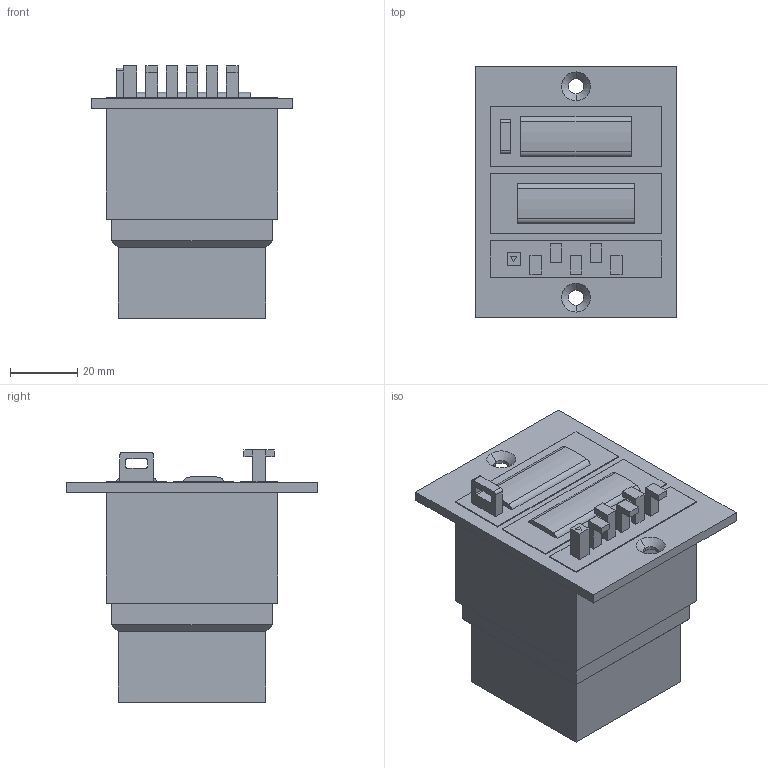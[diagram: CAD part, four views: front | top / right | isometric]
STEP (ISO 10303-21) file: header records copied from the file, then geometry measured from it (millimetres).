
FILE_DESCRIPTION((''),'2;1');
FILE_NAME('0821304008','2015-04-21T',('vol1hc'),(''),'PRO/ENGINEER BY PARAMETRIC TECHNOLOGY CORPORATION, 2009380','PRO/ENGINEER BY PARAMETRIC TECHNOLOGY CORPORATION, 2009380','');
FILE_SCHEMA(('CONFIG_CONTROL_DESIGN'));
Length unit declared in the file: millimetre
Products named in the file (1): 0821304008
Bounding box: 60 x 75 x 75.2 mm (x, y, z)
Volume: 160809.8 mm3; surface area: 23785.7 mm2
Topology: 1 solids, 1 shells, 136 faces, 325 edges, 210 vertices
Faces by surface type: plane 100, cylinder 24, cone 12
Entity records: 3959 total; most frequent: CARTESIAN_POINT 671, DIRECTION 657, ORIENTED_EDGE 650, EDGE_CURVE 325, VECTOR 265, LINE 265, VERTEX_POINT 210, AXIS2_PLACEMENT_3D 196
